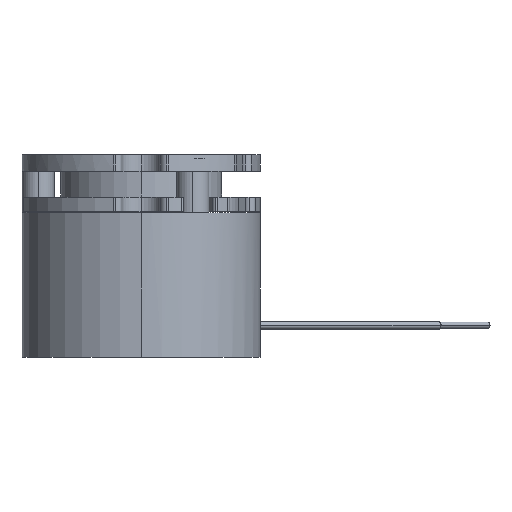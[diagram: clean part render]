
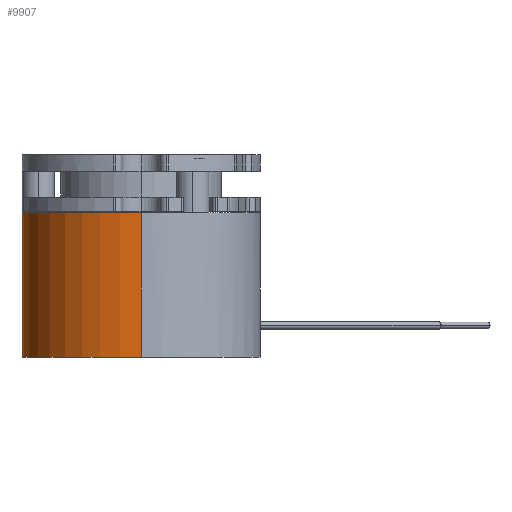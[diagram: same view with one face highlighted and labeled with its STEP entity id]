
A CAD part, left-side view. The second image highlights one B-rep face of the part: STEP entity #9907.
In plain terms, the highlighted cylindrical face has radius 18.5 mm (diameter 37 mm), a partial arc.
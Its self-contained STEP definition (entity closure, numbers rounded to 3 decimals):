
#1652 = EDGE_CURVE ( 'NONE', #10619, #10701, #9501, .T. ) ;
#1653 = EDGE_CURVE ( 'NONE', #10673, #10639, #9505, .T. ) ;
#1655 = EDGE_CURVE ( 'NONE', #10619, #10673, #9506, .T. ) ;
#1716 = EDGE_CURVE ( 'NONE', #10701, #10322, #9599, .T. ) ;
#1718 = EDGE_CURVE ( 'NONE', #10322, #10639, #9596, .T. ) ;
#3258 = CARTESIAN_POINT ( 'NONE',  ( -18.5, 0., 22.5 ) ) ;
#3297 = CARTESIAN_POINT ( 'NONE',  ( 18.5, 0., 22.5 ) ) ;
#3317 = CARTESIAN_POINT ( 'NONE',  ( -18.5, 0., 0. ) ) ;
#3351 = CARTESIAN_POINT ( 'NONE',  ( 18.5, 0., 0. ) ) ;
#3370 = CARTESIAN_POINT ( 'NONE',  ( 0., 18.5, 22.5 ) ) ;
#3647 = AXIS2_PLACEMENT_3D ( 'NONE', #4319, #4308, #4327 ) ;
#4308 = DIRECTION ( 'NONE',  ( 0., 0., -1. ) ) ;
#4319 = CARTESIAN_POINT ( 'NONE',  ( 0., 0., 22.5 ) ) ;
#4327 = DIRECTION ( 'NONE',  ( -1., 0., 0. ) ) ;
#5315 = AXIS2_PLACEMENT_3D ( 'NONE', #11433, #11398, #11397 ) ;
#5316 = AXIS2_PLACEMENT_3D ( 'NONE', #11402, #11401, #11404 ) ;
#5346 = AXIS2_PLACEMENT_3D ( 'NONE', #11568, #11569, #11570 ) ;
#9267 = FACE_OUTER_BOUND ( 'NONE', #11995, .T. ) ;
#9275 = CYLINDRICAL_SURFACE ( 'NONE', #3647, 18.5 ) ;
#9501 = CIRCLE ( 'NONE', #5315, 18.5 ) ;
#9505 = CIRCLE ( 'NONE', #5316, 18.5 ) ;
#9506 = LINE ( 'NONE', #11400, #9510 ) ;
#9510 = VECTOR ( 'NONE', #11405, 1000. ) ;
#9596 = LINE ( 'NONE', #11567, #9604 ) ;
#9599 = CIRCLE ( 'NONE', #5346, 18.5 ) ;
#9604 = VECTOR ( 'NONE', #11572, 1000. ) ;
#9907 = ADVANCED_FACE ( 'NONE', ( #9267 ), #9275, .T. ) ;
#10322 = VERTEX_POINT ( 'NONE', #3258 ) ;
#10619 = VERTEX_POINT ( 'NONE', #3297 ) ;
#10639 = VERTEX_POINT ( 'NONE', #3317 ) ;
#10673 = VERTEX_POINT ( 'NONE', #3351 ) ;
#10701 = VERTEX_POINT ( 'NONE', #3370 ) ;
#11397 = DIRECTION ( 'NONE',  ( 1., 0., 0. ) ) ;
#11398 = DIRECTION ( 'NONE',  ( 0., 0., 1. ) ) ;
#11400 = CARTESIAN_POINT ( 'NONE',  ( 18.5, 0., 22.5 ) ) ;
#11401 = DIRECTION ( 'NONE',  ( 0., 0., 1. ) ) ;
#11402 = CARTESIAN_POINT ( 'NONE',  ( 0., 0., 0. ) ) ;
#11404 = DIRECTION ( 'NONE',  ( 1., 0., 0. ) ) ;
#11405 = DIRECTION ( 'NONE',  ( 0., 0., -1. ) ) ;
#11433 = CARTESIAN_POINT ( 'NONE',  ( 0., 0., 22.5 ) ) ;
#11567 = CARTESIAN_POINT ( 'NONE',  ( -18.5, 0., 22.5 ) ) ;
#11568 = CARTESIAN_POINT ( 'NONE',  ( 0., 0., 22.5 ) ) ;
#11569 = DIRECTION ( 'NONE',  ( 0., 0., 1. ) ) ;
#11570 = DIRECTION ( 'NONE',  ( 1., 0., 0. ) ) ;
#11572 = DIRECTION ( 'NONE',  ( 0., 0., -1. ) ) ;
#11995 = EDGE_LOOP ( 'NONE', ( #12661, #12146, #12623, #12717, #12713 ) ) ;
#12146 = ORIENTED_EDGE ( 'NONE', *, *, #1655, .T. ) ;
#12623 = ORIENTED_EDGE ( 'NONE', *, *, #1653, .T. ) ;
#12661 = ORIENTED_EDGE ( 'NONE', *, *, #1652, .F. ) ;
#12713 = ORIENTED_EDGE ( 'NONE', *, *, #1716, .F. ) ;
#12717 = ORIENTED_EDGE ( 'NONE', *, *, #1718, .F. ) ;
